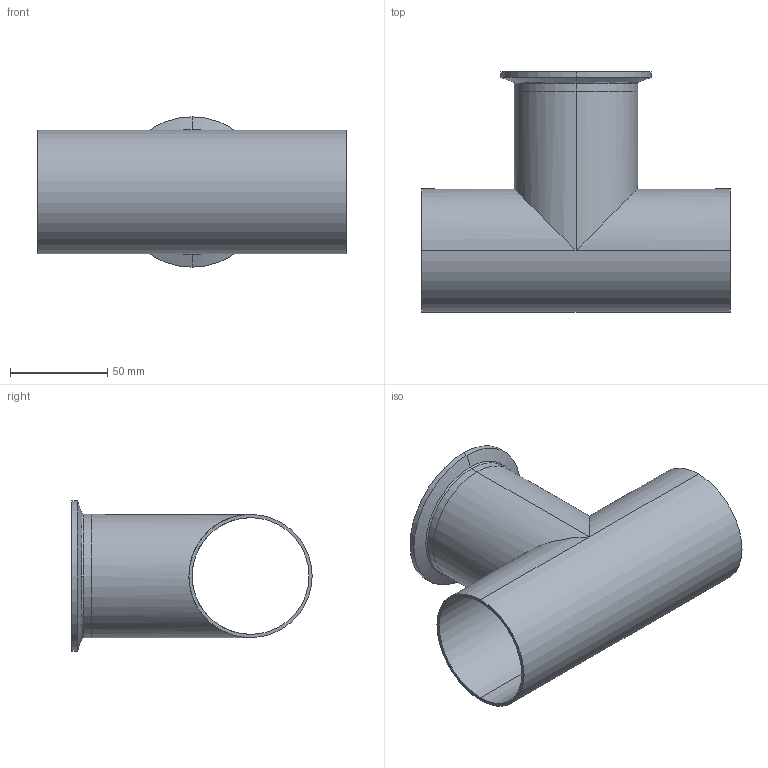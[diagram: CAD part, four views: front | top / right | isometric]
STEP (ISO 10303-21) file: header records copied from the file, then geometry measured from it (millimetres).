
FILE_DESCRIPTION (( 'STEP AP214' ), '1' );
FILE_NAME ('TE7WWC6L2.5-...STEP', '2016-05-23T05:38:12', ( 'eran' ), ( '' ), 'SwSTEP 2.0', 'SolidWorks 2016', '' );
FILE_SCHEMA (( 'AUTOMOTIVE_DESIGN' ));
Length unit declared in the file: millimetre
Products named in the file (1): TE7WWC6L2.5-..
Bounding box: 158.8 x 123.83 x 77.39 mm (x, y, z)
Volume: 73775.5 mm3; surface area: 86630.6 mm2
Topology: 2 solids, 2 shells, 38 faces, 92 edges, 58 vertices
Faces by surface type: cylinder 16, bspline 10, plane 6, cone 6
Entity records: 1854 total; most frequent: CARTESIAN_POINT 919, DIRECTION 198, ORIENTED_EDGE 184, EDGE_CURVE 92, AXIS2_PLACEMENT_3D 87, VERTEX_POINT 58, CIRCLE 58, EDGE_LOOP 44
